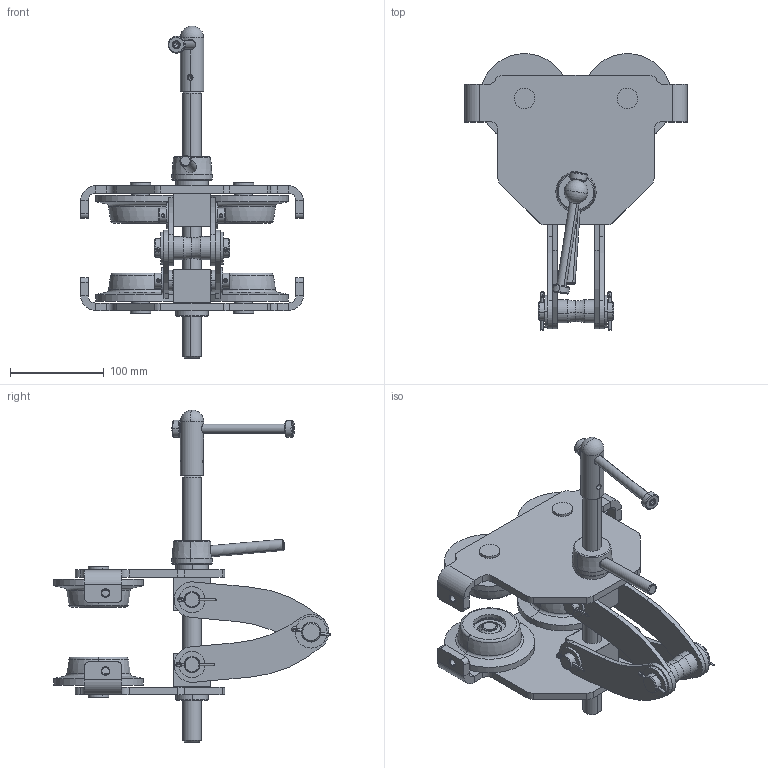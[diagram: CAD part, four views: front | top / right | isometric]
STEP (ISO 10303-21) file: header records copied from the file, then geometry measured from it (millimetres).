
FILE_DESCRIPTION (( 'STEP AP214' ), '1' );
FILE_NAME ('OZ1QAT.STEP', '2023-03-13T15:51:37', ( '' ), ( '' ), 'SwSTEP 2.0', 'SolidWorks 2021', '' );
FILE_SCHEMA (( 'AUTOMOTIVE_DESIGN' ));
Length unit declared in the file: millimetre
Products named in the file (1): OZ1QAT
Bounding box: 238 x 295.92 x 355 mm (x, y, z)
Volume: 1381209.9 mm3; surface area: 387198.5 mm2
Topology: 40 solids, 40 shells, 878 faces, 1903 edges, 1145 vertices
Faces by surface type: cylinder 338, plane 268, cone 148, torus 120, bspline 2, sphere 2
Entity records: 36960 total; most frequent: CARTESIAN_POINT 7047, DIRECTION 4566, ORIENTED_EDGE 3790, AXIS2_PLACEMENT_3D 1895, EDGE_CURVE 1895, VERTEX_POINT 1145, CIRCLE 1018, EDGE_LOOP 1014
